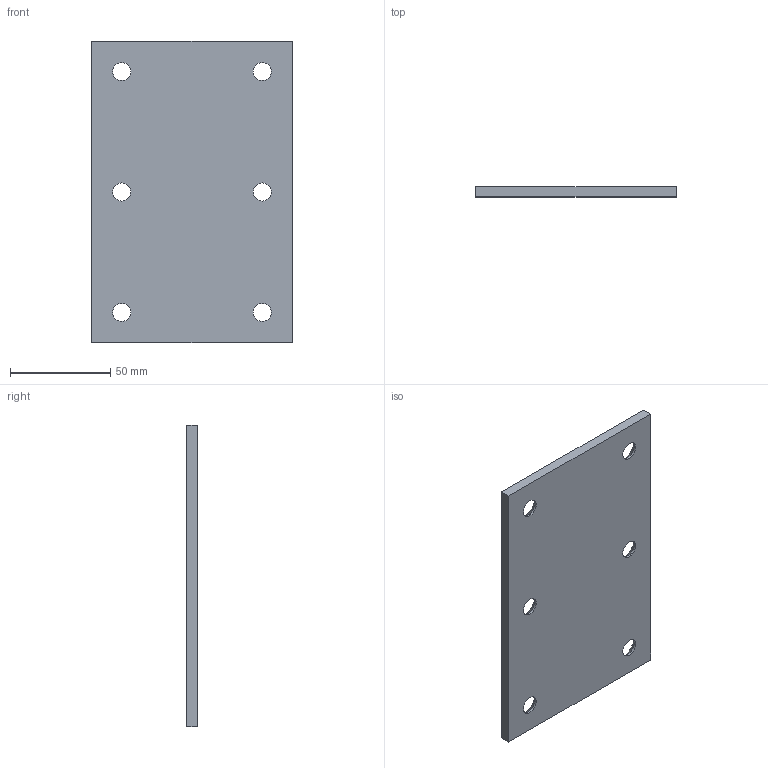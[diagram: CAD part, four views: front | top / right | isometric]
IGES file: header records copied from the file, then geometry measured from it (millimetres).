
Start section: Data from Parasolid IGES Translator 20.0.26, Copyright(c) 2006 Siemens P LM Software. All Rights Reserved.
Global section: file name: P605-01-100-150.igs; native system: By Siemens PLM Incorporated; preprocessor: XPlus GENERIC/IGES 20.0.26; author: Noname; organization: Noname; date: 20190705.150225; units: millimetre
Bounding box: 100 x 5 x 150 mm (x, y, z)
Surface area: 32312.3 mm2 (no closed solid volume)
Topology: 0 solids, 0 shells, 18 faces, 84 edges, 68 vertices
Faces by surface type: revolution 12, extrusion 6
